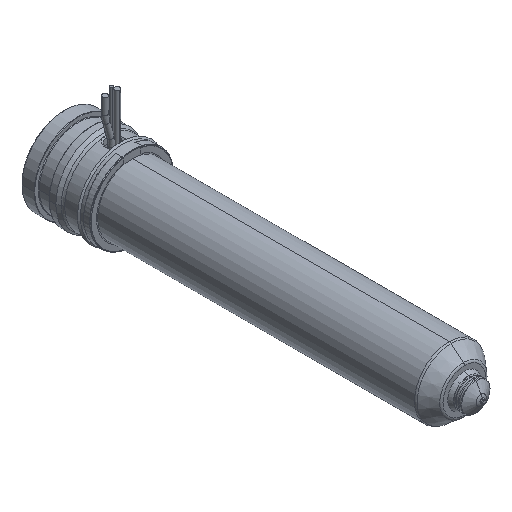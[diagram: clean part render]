
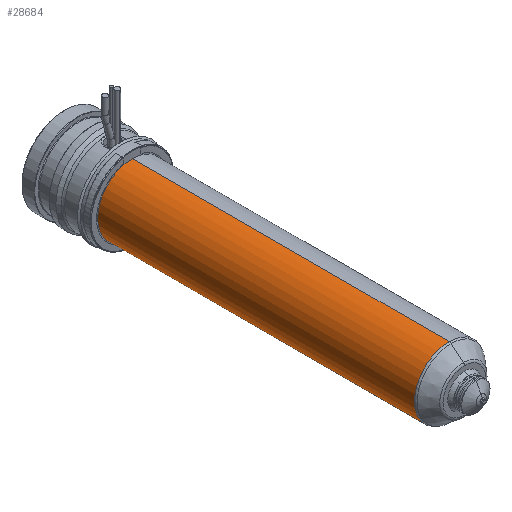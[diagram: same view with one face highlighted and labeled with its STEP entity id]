
A CAD part, isometric view. The second image highlights one B-rep face of the part: STEP entity #28684.
In plain terms, the highlighted cylindrical face has radius 12 mm (diameter 24 mm), a partial arc.
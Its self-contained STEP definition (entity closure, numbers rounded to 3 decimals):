
#28075=CARTESIAN_POINT('',(0.,-133.736,0.));
#28076=DIRECTION('',(0.,-1.,0.));
#28077=DIRECTION('',(0.,0.,1.));
#28078=AXIS2_PLACEMENT_3D('',#28075,#28076,#28077);
#28083=CARTESIAN_POINT('',(0.,-24.,0.));
#28084=DIRECTION('',(0.,1.,0.));
#28085=DIRECTION('',(0.,0.,-1.));
#28086=AXIS2_PLACEMENT_3D('',#28083,#28084,#28085);
#28091=DIRECTION('',(0.,1.,0.));
#28092=VECTOR('',#28091,109.736);
#28093=CARTESIAN_POINT('',(0.,-133.736,12.));
#28094=LINE('',#28093,#28092);
#28106=DIRECTION('',(0.,1.,0.));
#28107=VECTOR('',#28106,109.736);
#28108=CARTESIAN_POINT('',(0.,-133.736,-12.));
#28109=LINE('',#28108,#28107);
#28289=CARTESIAN_POINT('',(0.,-133.736,12.));
#28290=CARTESIAN_POINT('',(0.,-24.,12.));
#28291=VERTEX_POINT('',#28289);
#28292=VERTEX_POINT('',#28290);
#28293=CARTESIAN_POINT('',(0.,-133.736,-12.));
#28294=CARTESIAN_POINT('',(0.,-24.,-12.));
#28295=VERTEX_POINT('',#28293);
#28296=VERTEX_POINT('',#28294);
#28670=CARTESIAN_POINT('',(0.,-13.7,0.));
#28671=DIRECTION('',(0.,-1.,0.));
#28672=DIRECTION('',(0.,0.,1.));
#28673=AXIS2_PLACEMENT_3D('',#28670,#28671,#28672);
#28674=CYLINDRICAL_SURFACE('',#28673,12.);
#28676=ORIENTED_EDGE('',*,*,#28675,.F.);
#28677=ORIENTED_EDGE('',*,*,#28665,.T.);
#28679=ORIENTED_EDGE('',*,*,#28678,.T.);
#28681=ORIENTED_EDGE('',*,*,#28680,.T.);
#28682=EDGE_LOOP('',(#28676,#28677,#28679,#28681));
#28683=FACE_OUTER_BOUND('',#28682,.F.);
#28684=ADVANCED_FACE('',(#28683),#28674,.T.);
#28079=CIRCLE('',#28078,12.);
#28087=CIRCLE('',#28086,12.);
#28665=EDGE_CURVE('',#28291,#28295,#28079,.T.);
#28675=EDGE_CURVE('',#28291,#28292,#28094,.T.);
#28678=EDGE_CURVE('',#28295,#28296,#28109,.T.);
#28680=EDGE_CURVE('',#28296,#28292,#28087,.T.);
